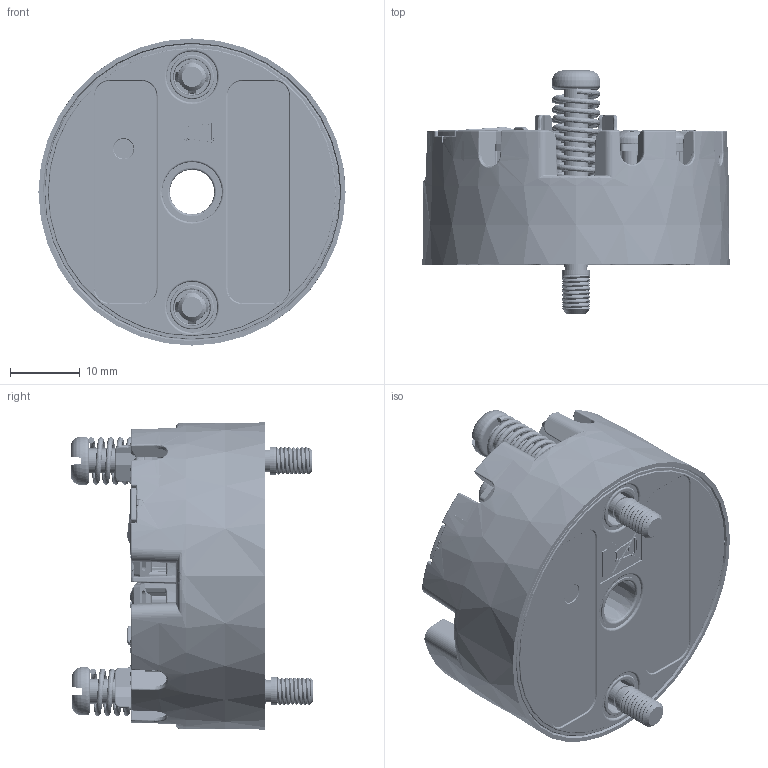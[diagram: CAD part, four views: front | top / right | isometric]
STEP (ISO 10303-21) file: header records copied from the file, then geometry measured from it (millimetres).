
FILE_DESCRIPTION((''),'2;1');
FILE_NAME('ASM0001_ASM','2018-11-23T11:50:42',('MMPT'),(''),'CREO PARAMETRIC BY PTC INC, 2017110','CREO PARAMETRIC BY PTC INC, 2017110','');
FILE_SCHEMA(('AUTOMOTIVE_DESIGN { 1 0 10303 214 1 1 1 1 }'));
Length unit declared in the file: millimetre
Products named in the file (18): 5300NP_SKEL_B_1; PB5400-ENCRED-UL-03-V3R0_STP_HN; MT007-1_1; STIKBEN_B_1; SK06-1_2; LGU-5400_2; BD040-PIN-5_40X2_45_1; BD040-INSULATOR_A_1; ASM0003_ASM_1_ASM; BD040-10X-A-0200-0340-X-X_REVD__ASM; MONTAGE_SKRUE_5; FJEDER_166002_1; PROBE-5400_1; PB5400-BOTRED-UL-03-V2R0_2; PB5400-CONRED-UL-01-V8R0_1; JUMPER_2; PB5400-ENCRED-UL-03-V2R0_ASM_20_ASM; ASM0001_ASM
Assembly tree (58 placements, depth 5):
  ASM0001_ASM
    PB5400-ENCRED-UL-03-V2R0_ASM_20_ASM
      5300NP_SKEL_B_1
      PB5400-ENCRED-UL-03-V3R0_STP_HN
      MT007-1_1  x9
      STIKBEN_B_1  x9
      SK06-1_2  x9
      LGU-5400_2
      BD040-10X-A-0200-0340-X-X_REVD__ASM
        ASM0003_ASM_1_ASM
          BD040-PIN-5_40X2_45_1  x8
          BD040-INSULATOR_A_1  x8
      MONTAGE_SKRUE_5  x2
      FJEDER_166002_1  x2
      PROBE-5400_1
      PB5400-BOTRED-UL-03-V2R0_2
      PB5400-CONRED-UL-01-V8R0_1
      JUMPER_2  x2
Bounding box: 44 x 34.77 x 44 mm (x, y, z)
Volume: 19383.2 mm3; surface area: 26240.7 mm2
Topology: 54 solids, 64 shells, 6436 faces, 16581 edges, 10176 vertices
Faces by surface type: cylinder 1831, plane 1817, bspline 1409, torus 658, cone 465, sphere 183, extrusion 71, revolution 2
Entity records: 268179 total; most frequent: CARTESIAN_POINT 117311, ORIENTED_EDGE 25790, DIRECTION 20597, EDGE_CURVE 12897, PRESENTATION_STYLE_ASSIGNMENT 11872, STYLED_ITEM 11872, CURVE_STYLE 11481, AXIS2_PLACEMENT_3D 7997
